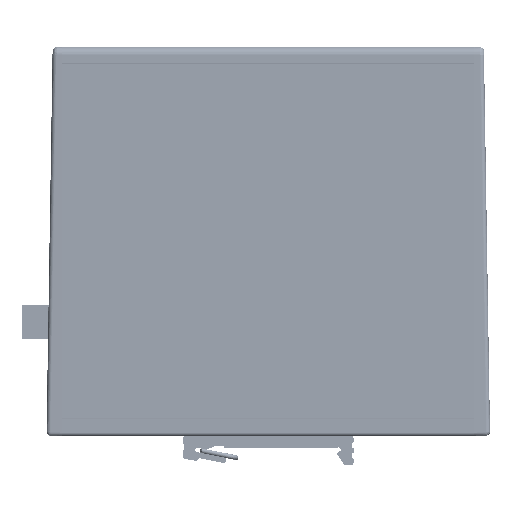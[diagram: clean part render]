
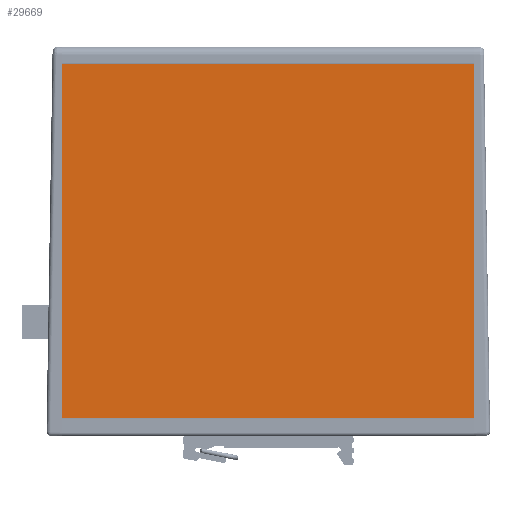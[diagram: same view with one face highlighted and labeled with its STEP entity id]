
A CAD part, left-side view. The second image highlights one B-rep face of the part: STEP entity #29669.
In plain terms, the highlighted planar face has unit normal (-1, 0, 0).
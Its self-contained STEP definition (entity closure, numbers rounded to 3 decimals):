
#4989 = VECTOR ( 'NONE', #10652, 1000. ) ;
#7160 = DIRECTION ( 'NONE',  ( 0., 0., -1. ) ) ;
#9204 = ORIENTED_EDGE ( 'NONE', *, *, #59609, .F. ) ;
#10652 = DIRECTION ( 'NONE',  ( 0., -1., 0. ) ) ;
#11049 = CARTESIAN_POINT ( 'NONE',  ( -21.15, 60.25, 5.134 ) ) ;
#21439 = VERTEX_POINT ( 'NONE', #38642 ) ;
#23042 = DIRECTION ( 'NONE',  ( 0., 0., 1. ) ) ;
#28075 = VECTOR ( 'NONE', #50501, 1000. ) ;
#29669 = ADVANCED_FACE ( 'NONE', ( #191150 ), #185741, .F. ) ;
#34114 = CARTESIAN_POINT ( 'NONE',  ( -21.15, 60.25, 108.616 ) ) ;
#35181 = ORIENTED_EDGE ( 'NONE', *, *, #138306, .T. ) ;
#38642 = CARTESIAN_POINT ( 'NONE',  ( -21.15, 60.25, 108.616 ) ) ;
#50501 = DIRECTION ( 'NONE',  ( 0., -1., 0. ) ) ;
#51581 = CARTESIAN_POINT ( 'NONE',  ( -21.15, 60.25, 108.616 ) ) ;
#56597 = DIRECTION ( 'NONE',  ( 0., 0., 1. ) ) ;
#59609 = EDGE_CURVE ( 'NONE', #21439, #152341, #107412, .T. ) ;
#67445 = CARTESIAN_POINT ( 'NONE',  ( -21.15, 60.25, 108.616 ) ) ;
#85747 = CARTESIAN_POINT ( 'NONE',  ( -21.15, -60.25, 108.616 ) ) ;
#85870 = EDGE_CURVE ( 'NONE', #86357, #113481, #159015, .T. ) ;
#86357 = VERTEX_POINT ( 'NONE', #11049 ) ;
#96589 = DIRECTION ( 'NONE',  ( 1., 0., 0. ) ) ;
#101493 = VECTOR ( 'NONE', #23042, 1000. ) ;
#101904 = EDGE_LOOP ( 'NONE', ( #35181, #9204, #111718, #192689 ) ) ;
#105342 = LINE ( 'NONE', #160818, #184538 ) ;
#107412 = LINE ( 'NONE', #34114, #28075 ) ;
#111718 = ORIENTED_EDGE ( 'NONE', *, *, #182193, .F. ) ;
#113481 = VERTEX_POINT ( 'NONE', #119463 ) ;
#119463 = CARTESIAN_POINT ( 'NONE',  ( -21.15, -60.25, 5.134 ) ) ;
#138306 = EDGE_CURVE ( 'NONE', #113481, #152341, #105342, .T. ) ;
#141074 = LINE ( 'NONE', #67445, #101493 ) ;
#152341 = VERTEX_POINT ( 'NONE', #85747 ) ;
#159015 = LINE ( 'NONE', #173608, #4989 ) ;
#160818 = CARTESIAN_POINT ( 'NONE',  ( -21.15, -60.25, 108.616 ) ) ;
#173608 = CARTESIAN_POINT ( 'NONE',  ( -21.15, 60.25, 5.134 ) ) ;
#182193 = EDGE_CURVE ( 'NONE', #86357, #21439, #141074, .T. ) ;
#184538 = VECTOR ( 'NONE', #56597, 1000. ) ;
#185741 = PLANE ( 'NONE',  #193541 ) ;
#191150 = FACE_OUTER_BOUND ( 'NONE', #101904, .T. ) ;
#192689 = ORIENTED_EDGE ( 'NONE', *, *, #85870, .T. ) ;
#193541 = AXIS2_PLACEMENT_3D ( 'NONE', #51581, #96589, #7160 ) ;
